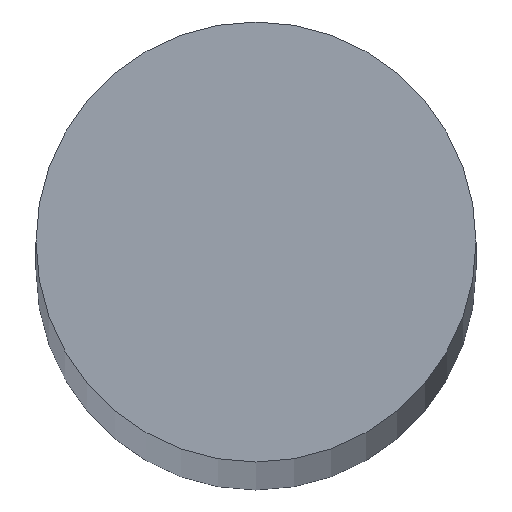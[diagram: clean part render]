
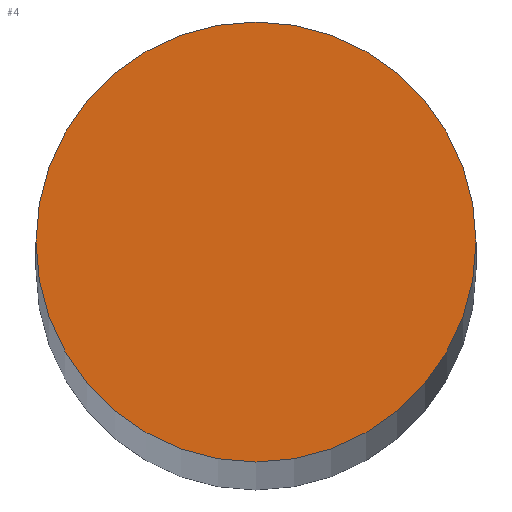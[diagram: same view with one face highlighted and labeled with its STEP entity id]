
A CAD part, top view. The second image highlights one B-rep face of the part: STEP entity #4.
In plain terms, the highlighted planar face has unit normal (0, 0, 1).
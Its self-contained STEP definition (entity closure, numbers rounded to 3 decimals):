
#4 = ADVANCED_FACE ( 'NONE', ( #91 ), #37, .T. ) ;
#6 = AXIS2_PLACEMENT_3D ( 'NONE', #49, #50, #51 ) ;
#21 = CARTESIAN_POINT ( 'NONE',  ( 6., 0., 218.5 ) ) ;
#33 = CARTESIAN_POINT ( 'NONE',  ( -6., 0., 218.5 ) ) ;
#36 = CARTESIAN_POINT ( 'NONE',  ( 0., 0., 218.5 ) ) ;
#37 = PLANE ( 'NONE',  #122 ) ;
#39 = DIRECTION ( 'NONE',  ( 0., 0., 1. ) ) ;
#40 = DIRECTION ( 'NONE',  ( 1., 0., 0. ) ) ;
#45 = CARTESIAN_POINT ( 'NONE',  ( 0., 0., 218.5 ) ) ;
#47 = DIRECTION ( 'NONE',  ( 0., 0., 1. ) ) ;
#48 = DIRECTION ( 'NONE',  ( 1., 0., 0. ) ) ;
#49 = CARTESIAN_POINT ( 'NONE',  ( 0., 0., 218.5 ) ) ;
#50 = DIRECTION ( 'NONE',  ( 0., 0., 1. ) ) ;
#51 = DIRECTION ( 'NONE',  ( 1., 0., 0. ) ) ;
#65 = VERTEX_POINT ( 'NONE', #33 ) ;
#78 = ORIENTED_EDGE ( 'NONE', *, *, #118, .T. ) ;
#79 = ORIENTED_EDGE ( 'NONE', *, *, #119, .T. ) ;
#85 = EDGE_LOOP ( 'NONE', ( #78, #79 ) ) ;
#91 = FACE_OUTER_BOUND ( 'NONE', #85, .T. ) ;
#97 = CIRCLE ( 'NONE', #112, 6. ) ;
#98 = CIRCLE ( 'NONE', #6, 6. ) ;
#112 = AXIS2_PLACEMENT_3D ( 'NONE', #45, #47, #48 ) ;
#118 = EDGE_CURVE ( 'NONE', #65, #140, #97, .T. ) ;
#119 = EDGE_CURVE ( 'NONE', #140, #65, #98, .T. ) ;
#122 = AXIS2_PLACEMENT_3D ( 'NONE', #36, #39, #40 ) ;
#140 = VERTEX_POINT ( 'NONE', #21 ) ;
